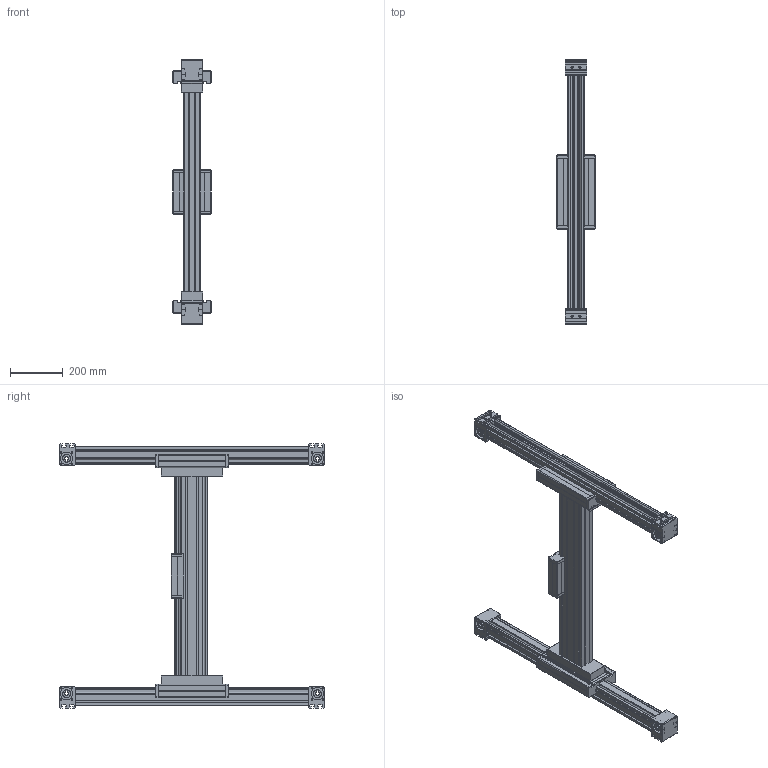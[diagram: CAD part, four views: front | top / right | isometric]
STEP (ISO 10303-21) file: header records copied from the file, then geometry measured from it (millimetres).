
FILE_DESCRIPTION (( 'STEP AP214' ), '1' );
FILE_NAME ('ELZU60 W.STEP', '2021-09-29T11:55:25', ( '' ), ( '' ), 'SwSTEP 2.0', 'SolidWorks 2020', '' );
FILE_SCHEMA (( 'AUTOMOTIVE_DESIGN' ));
Length unit declared in the file: millimetre
Products named in the file (7): timing belt reverse unit^ELZU60 W_coupling claw pos.2; carriage x^ELZU60 W_carriage version 0; profile x^ELZU60 W_2x guide rods; profile y^ELZU60 W_2x guide rods; ELZU60 W; timing belt reverse unit^ELZU60 W_coupling claw pos.1; carriage y^ELZU60 W_carriage version 0
Assembly tree (10 placements, depth 2):
  ELZU60 W
    profile x^ELZU60 W_2x guide rods
    profile y^ELZU60 W_2x guide rods  x2
    carriage x^ELZU60 W_carriage version 0
    carriage y^ELZU60 W_carriage version 0  x2
    timing belt reverse unit^ELZU60 W_coupling claw pos.2  x2
    timing belt reverse unit^ELZU60 W_coupling claw pos.1  x2
Bounding box: 144 x 1000 x 1000 mm (x, y, z)
Volume: 14238668.2 mm3; surface area: 2517971.2 mm2
Topology: 28 solids, 28 shells, 1175 faces, 3113 edges, 2030 vertices
Faces by surface type: plane 782, cylinder 345, torus 24, sphere 16, cone 8
Entity records: 24507 total; most frequent: CARTESIAN_POINT 4023, ORIENTED_EDGE 3948, DIRECTION 3924, EDGE_CURVE 1974, LINE 1530, VECTOR 1530, VERTEX_POINT 1296, AXIS2_PLACEMENT_3D 1197
